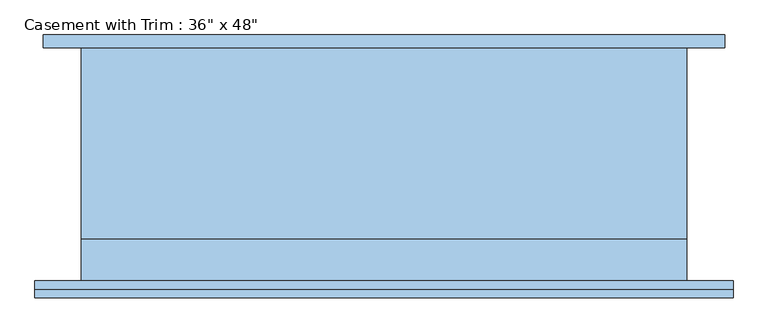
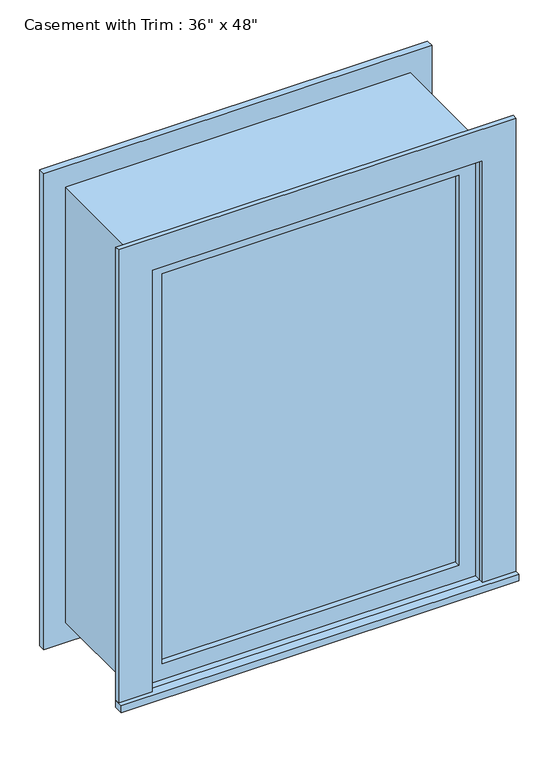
"""IFC4 building model written with IfcOpenShell, lengths in millimetres: window geometry."""

from ifc_helpers import new_model, si_unit, frame, origin, place, context, project, spatial, polyline, outline, extrude, source, transform, mapped, element, save


def window_c3f4fc83(model_context):
    return source(origin(), model_context, "Body", "SweptSolid", [
        extrude(outline(polyline([(-527.05, -201.6125), (-527.05, -176.2125), (527.05, -176.2125), (527.05, -201.6125), (-527.05, -201.6125)])), frame((0.0, 0.0, 914.4), z_axis=(0.0, 0.0, 1.0), x_axis=(1.0, 0.0, 0.0)), (0.0, 0.0, 1.0), 19.05),
        extrude(outline(polyline([(2114.55, -438.15), (2114.55, 438.15), (933.45, 438.15), (933.45, 527.05), (2203.45, 527.05), (2203.45, -527.05), (933.45, -527.05), (933.45, -438.15), (2114.55, -438.15)])), frame((0.0, -188.9125, 0.0), z_axis=(0.0, 1.0, 0.0), x_axis=(0.0, 0.0, 1.0)), (0.0, 0.0, 1.0), 12.7),
        extrude(outline(polyline([(2190.75, 514.35), (2190.75, -514.35), (857.25, -514.35), (857.25, 514.35), (2190.75, 514.35)]), holes=[polyline([(2101.85, 425.45), (946.15, 425.45), (946.15, -425.45), (2101.85, -425.45), (2101.85, 425.45)])]), frame((0.0, 176.2125, 0.0), z_axis=(0.0, 1.0, 0.0), x_axis=(0.0, 0.0, 1.0)), (0.0, 0.0, 1.0), 19.05),
        extrude(outline(polyline([(393.7, -128.5875), (393.7, -141.2875), (-393.7, -141.2875), (-393.7, -128.5875), (393.7, -128.5875)])), frame((0.0, 0.0, 977.9), z_axis=(0.0, 0.0, 1.0), x_axis=(1.0, 0.0, 0.0)), (0.0, 0.0, 1.0), 1092.2),
        extrude(outline(polyline([(2114.55, -438.15), (933.45, -438.15), (933.45, 438.15), (2114.55, 438.15), (2114.55, -438.15)]), holes=[polyline([(2070.1, -393.7), (2070.1, 393.7), (977.9, 393.7), (977.9, -393.7), (2070.1, -393.7)])]), frame((0.0, -157.1625, 0.0), z_axis=(0.0, 1.0, 0.0), x_axis=(0.0, 0.0, 1.0)), (0.0, 0.0, 1.0), 44.45),
        extrude(outline(polyline([(2133.6, -457.2), (914.4, -457.2), (914.4, 457.2), (2133.6, 457.2), (2133.6, -457.2)]), holes=[polyline([(2101.85, -425.45), (2101.85, 425.45), (946.15, 425.45), (946.15, -425.45), (2101.85, -425.45)])]), frame((0.0, -112.7125, 0.0), z_axis=(0.0, 1.0, 0.0), x_axis=(0.0, 0.0, 1.0)), (0.0, 0.0, 1.0), 288.925),
        extrude(outline(polyline([(2133.6, 457.2), (2133.6, -457.2), (914.4, -457.2), (914.4, 457.2), (2133.6, 457.2)]), holes=[polyline([(2114.55, 438.15), (933.45, 438.15), (933.45, -438.15), (2114.55, -438.15), (2114.55, 438.15)])]), frame((0.0, -176.2125, 0.0), z_axis=(0.0, 1.0, 0.0), x_axis=(0.0, 0.0, 1.0)), (0.0, 0.0, 1.0), 63.5),
    ])


if __name__ == "__main__":
    model = new_model("IFC4")
    model_context = context("Model", 3, world=origin())
    ifc_project = project(units=[si_unit("LENGTHUNIT", "METRE", prefix="MILLI")], contexts=[model_context])
    site = spatial("IfcSite", under=ifc_project)
    building = spatial("IfcBuilding", under=site)
    placement = place(None, origin())
    window_shape = window_c3f4fc83(model_context)
    element("IfcWindow", 1, ObjectType="Casement with Trim : 36\" x 48\"", at=placement, inside=building, context=model_context, shape_type="MappedRepresentation", body=[
        mapped(window_shape, transform((0.0, 0.0, 0.0), x_axis=(1.0, 0.0, 0.0), y_axis=(0.0, 1.0, 0.0), z_axis=(0.0, 0.0, 1.0))),
    ])
    save(model, "model.ifc")
